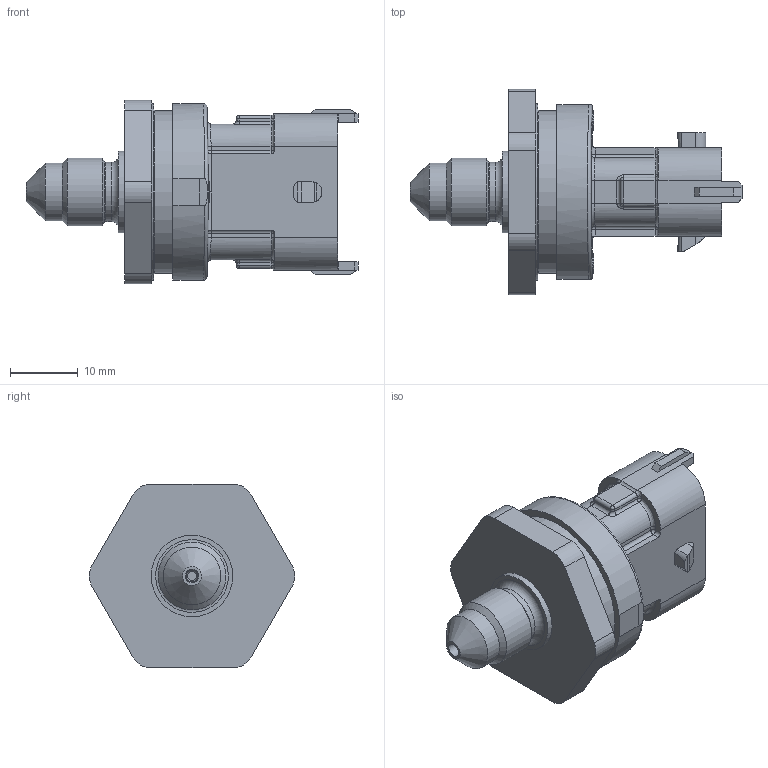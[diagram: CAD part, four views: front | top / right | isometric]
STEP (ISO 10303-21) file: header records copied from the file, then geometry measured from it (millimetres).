
FILE_DESCRIPTION(/* description */ (''),/* implementation_level */ '2;1');
FILE_NAME(/* name */ '0261b08072_06_111009',/* time_stamp */ '2009-11-10T13:05:41+06:00',/* author */ (''),/* organization */ (''),/* preprocessor_version */ 'ST-DEVELOPER v9',/* originating_system */ 'UGS - NX 4.0',/* authorisation */ '');
FILE_SCHEMA (('AUTOMOTIVE_DESIGN { 1 0 10303 214 1 1 1 1 }'));
Length unit declared in the file: millimetre
Products named in the file (1): hkm59A67ubz9
Bounding box: 48.85 x 30.25 x 27 mm (x, y, z)
Volume: 9763 mm3; surface area: 5546 mm2
Topology: 1 solids, 2 shells, 375 faces, 949 edges, 578 vertices
Faces by surface type: plane 175, cylinder 116, bspline 46, sphere 18, cone 10, torus 10
Full cylindrical faces by diameter (mm): 0.84 x1, 1.2 x3, 1.7 x1, 1.85 x1, 2 x1, 3 x2, 8.5 x1, 8.7 x1, 10 x1, 12 x1, 24 x2, 26 x1
Entity records: 14769 total; most frequent: CARTESIAN_POINT 5393, ORIENTED_EDGE 1794, EDGE_CURVE 897, DIRECTION 790, B_SPLINE_CURVE_WITH_KNOTS 654, VERTEX_POINT 569, EDGE_LOOP 420, AXIS2_PLACEMENT_3D 379
